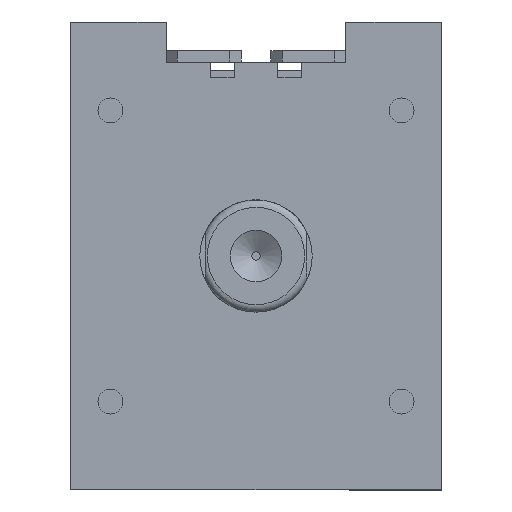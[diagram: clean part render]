
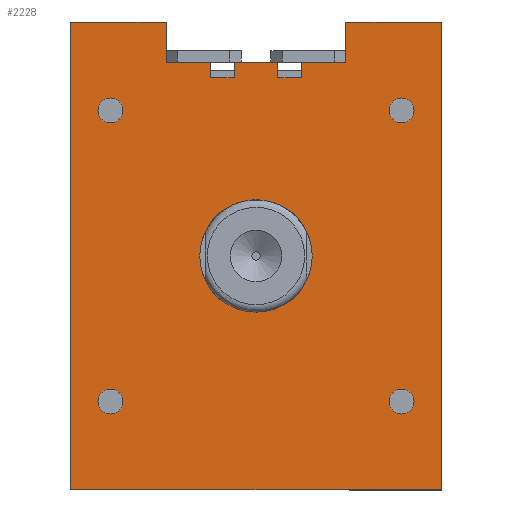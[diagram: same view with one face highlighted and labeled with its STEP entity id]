
A CAD part, front view. The second image highlights one B-rep face of the part: STEP entity #2228.
In plain terms, the highlighted planar face has unit normal (0, -1, 0).
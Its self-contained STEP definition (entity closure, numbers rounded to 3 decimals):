
#2034=CARTESIAN_POINT('',(0.,0.,-15.));
#2035=VERTEX_POINT('',#2034);
#2036=CARTESIAN_POINT('',(0.,0.,0.));
#2037=DIRECTION('',(0.0,1.0,0.0));
#2038=DIRECTION('',(0.0,0.0,-1.0));
#2039=AXIS2_PLACEMENT_3D('',#2036,#2037,#2038);
#2040=CIRCLE('',#2039,15.0);
#2041=EDGE_CURVE('',#2035,#2035,#2040,.T.);
#2046=CARTESIAN_POINT('',(0.,0.,3.066));
#2047=DIRECTION('',(0.0,1.0,0.0));
#2048=DIRECTION('',(-1.0,0.0,0.0));
#2049=AXIS2_PLACEMENT_3D('',#2046,#2047,#2048);
#2050=PLANE('',#2049);
#2051=CARTESIAN_POINT('',(49.5,0.,62.5));
#2052=VERTEX_POINT('',#2051);
#2053=CARTESIAN_POINT('',(49.5,0.,-62.5));
#2054=VERTEX_POINT('',#2053);
#2055=CARTESIAN_POINT('',(49.5,0.,62.5));
#2056=DIRECTION('',(0.0,0.0,-1.0));
#2057=VECTOR('',#2056,125.0);
#2058=LINE('',#2055,#2057);
#2059=EDGE_CURVE('',#2052,#2054,#2058,.T.);
#2060=ORIENTED_EDGE('',*,*,#2059,.F.);
#2061=CARTESIAN_POINT('',(24.,0.,62.5));
#2062=VERTEX_POINT('',#2061);
#2063=CARTESIAN_POINT('',(24.,0.,62.5));
#2064=DIRECTION('',(1.0,0.0,0.0));
#2065=VECTOR('',#2064,25.5);
#2066=LINE('',#2063,#2065);
#2067=EDGE_CURVE('',#2062,#2052,#2066,.T.);
#2068=ORIENTED_EDGE('',*,*,#2067,.F.);
#2069=CARTESIAN_POINT('',(24.,0.,51.8));
#2070=VERTEX_POINT('',#2069);
#2071=CARTESIAN_POINT('',(24.,0.,51.8));
#2072=DIRECTION('',(0.0,0.0,1.0));
#2073=VECTOR('',#2072,10.7);
#2074=LINE('',#2071,#2073);
#2075=EDGE_CURVE('',#2070,#2062,#2074,.T.);
#2076=ORIENTED_EDGE('',*,*,#2075,.F.);
#2077=CARTESIAN_POINT('',(12.2,0.,51.8));
#2078=VERTEX_POINT('',#2077);
#2079=CARTESIAN_POINT('',(12.2,0.,51.8));
#2080=DIRECTION('',(1.0,0.0,0.0));
#2081=VECTOR('',#2080,11.8);
#2082=LINE('',#2079,#2081);
#2083=EDGE_CURVE('',#2078,#2070,#2082,.T.);
#2084=ORIENTED_EDGE('',*,*,#2083,.F.);
#2085=CARTESIAN_POINT('',(12.2,0.,47.6));
#2086=VERTEX_POINT('',#2085);
#2087=CARTESIAN_POINT('',(12.2,0.,47.6));
#2088=DIRECTION('',(0.0,0.0,1.0));
#2089=VECTOR('',#2088,4.2);
#2090=LINE('',#2087,#2089);
#2091=EDGE_CURVE('',#2086,#2078,#2090,.T.);
#2092=ORIENTED_EDGE('',*,*,#2091,.F.);
#2093=CARTESIAN_POINT('',(5.8,0.,47.6));
#2094=VERTEX_POINT('',#2093);
#2095=CARTESIAN_POINT('',(5.8,0.,47.6));
#2096=DIRECTION('',(1.0,0.0,0.0));
#2097=VECTOR('',#2096,6.4);
#2098=LINE('',#2095,#2097);
#2099=EDGE_CURVE('',#2094,#2086,#2098,.T.);
#2100=ORIENTED_EDGE('',*,*,#2099,.F.);
#2101=CARTESIAN_POINT('',(5.8,0.,51.8));
#2102=VERTEX_POINT('',#2101);
#2103=CARTESIAN_POINT('',(5.8,0.,51.8));
#2104=DIRECTION('',(0.0,0.0,-1.0));
#2105=VECTOR('',#2104,4.2);
#2106=LINE('',#2103,#2105);
#2107=EDGE_CURVE('',#2102,#2094,#2106,.T.);
#2108=ORIENTED_EDGE('',*,*,#2107,.F.);
#2109=CARTESIAN_POINT('',(-5.8,0.,51.8));
#2110=VERTEX_POINT('',#2109);
#2111=CARTESIAN_POINT('',(-5.8,0.,51.8));
#2112=DIRECTION('',(1.0,0.0,0.0));
#2113=VECTOR('',#2112,11.6);
#2114=LINE('',#2111,#2113);
#2115=EDGE_CURVE('',#2110,#2102,#2114,.T.);
#2116=ORIENTED_EDGE('',*,*,#2115,.F.);
#2117=CARTESIAN_POINT('',(-5.8,0.,47.6));
#2118=VERTEX_POINT('',#2117);
#2119=CARTESIAN_POINT('',(-5.8,0.,47.6));
#2120=DIRECTION('',(0.0,0.0,1.0));
#2121=VECTOR('',#2120,4.2);
#2122=LINE('',#2119,#2121);
#2123=EDGE_CURVE('',#2118,#2110,#2122,.T.);
#2124=ORIENTED_EDGE('',*,*,#2123,.F.);
#2125=CARTESIAN_POINT('',(-12.2,0.,47.6));
#2126=VERTEX_POINT('',#2125);
#2127=CARTESIAN_POINT('',(-12.2,0.,47.6));
#2128=DIRECTION('',(1.0,0.0,0.0));
#2129=VECTOR('',#2128,6.4);
#2130=LINE('',#2127,#2129);
#2131=EDGE_CURVE('',#2126,#2118,#2130,.T.);
#2132=ORIENTED_EDGE('',*,*,#2131,.F.);
#2133=CARTESIAN_POINT('',(-12.2,0.,51.8));
#2134=VERTEX_POINT('',#2133);
#2135=CARTESIAN_POINT('',(-12.2,0.,51.8));
#2136=DIRECTION('',(0.0,0.0,-1.0));
#2137=VECTOR('',#2136,4.2);
#2138=LINE('',#2135,#2137);
#2139=EDGE_CURVE('',#2134,#2126,#2138,.T.);
#2140=ORIENTED_EDGE('',*,*,#2139,.F.);
#2141=CARTESIAN_POINT('',(-24.,0.,51.8));
#2142=VERTEX_POINT('',#2141);
#2143=CARTESIAN_POINT('',(-24.,0.,51.8));
#2144=DIRECTION('',(1.0,0.0,0.0));
#2145=VECTOR('',#2144,11.8);
#2146=LINE('',#2143,#2145);
#2147=EDGE_CURVE('',#2142,#2134,#2146,.T.);
#2148=ORIENTED_EDGE('',*,*,#2147,.F.);
#2149=CARTESIAN_POINT('',(-24.,0.,62.5));
#2150=VERTEX_POINT('',#2149);
#2151=CARTESIAN_POINT('',(-24.,0.,62.5));
#2152=DIRECTION('',(0.0,0.0,-1.0));
#2153=VECTOR('',#2152,10.7);
#2154=LINE('',#2151,#2153);
#2155=EDGE_CURVE('',#2150,#2142,#2154,.T.);
#2156=ORIENTED_EDGE('',*,*,#2155,.F.);
#2157=CARTESIAN_POINT('',(-49.5,0.,62.5));
#2158=VERTEX_POINT('',#2157);
#2159=CARTESIAN_POINT('',(-49.5,0.,62.5));
#2160=DIRECTION('',(1.0,0.0,0.0));
#2161=VECTOR('',#2160,25.5);
#2162=LINE('',#2159,#2161);
#2163=EDGE_CURVE('',#2158,#2150,#2162,.T.);
#2164=ORIENTED_EDGE('',*,*,#2163,.F.);
#2165=CARTESIAN_POINT('',(-49.5,0.,-62.5));
#2166=VERTEX_POINT('',#2165);
#2167=CARTESIAN_POINT('',(-49.5,0.,-62.5));
#2168=DIRECTION('',(0.0,0.0,1.0));
#2169=VECTOR('',#2168,125.0);
#2170=LINE('',#2167,#2169);
#2171=EDGE_CURVE('',#2166,#2158,#2170,.T.);
#2172=ORIENTED_EDGE('',*,*,#2171,.F.);
#2173=CARTESIAN_POINT('',(49.5,0.,-62.5));
#2174=DIRECTION('',(-1.0,0.0,0.0));
#2175=VECTOR('',#2174,99.0);
#2176=LINE('',#2173,#2175);
#2177=EDGE_CURVE('',#2054,#2166,#2176,.T.);
#2178=ORIENTED_EDGE('',*,*,#2177,.F.);
#2179=EDGE_LOOP('',(#2060,#2068,#2076,#2084,#2092,#2100,#2108,#2116,#2124,#2132,#2140,#2148,#2156,#2164,#2172,#2178));
#2180=FACE_OUTER_BOUND('',#2179,.T.);
#2181=CARTESIAN_POINT('',(-35.567,0.,38.891));
#2182=VERTEX_POINT('',#2181);
#2183=CARTESIAN_POINT('',(-38.891,0.,38.891));
#2184=DIRECTION('',(0.0,1.0,0.0));
#2185=DIRECTION('',(1.0,0.0,0.0));
#2186=AXIS2_PLACEMENT_3D('',#2183,#2184,#2185);
#2187=CIRCLE('',#2186,3.324);
#2188=EDGE_CURVE('',#2182,#2182,#2187,.T.);
#2189=ORIENTED_EDGE('',*,*,#2188,.T.);
#2190=EDGE_LOOP('',(#2189));
#2191=FACE_BOUND('',#2190,.T.);
#2192=CARTESIAN_POINT('',(42.214,0.,38.891));
#2193=VERTEX_POINT('',#2192);
#2194=CARTESIAN_POINT('',(38.891,0.,38.891));
#2195=DIRECTION('',(0.0,1.0,0.0));
#2196=DIRECTION('',(1.0,0.0,0.0));
#2197=AXIS2_PLACEMENT_3D('',#2194,#2195,#2196);
#2198=CIRCLE('',#2197,3.324);
#2199=EDGE_CURVE('',#2193,#2193,#2198,.T.);
#2200=ORIENTED_EDGE('',*,*,#2199,.T.);
#2201=EDGE_LOOP('',(#2200));
#2202=FACE_BOUND('',#2201,.T.);
#2203=CARTESIAN_POINT('',(42.214,0.,-38.891));
#2204=VERTEX_POINT('',#2203);
#2205=CARTESIAN_POINT('',(38.891,0.,-38.891));
#2206=DIRECTION('',(0.0,1.0,0.0));
#2207=DIRECTION('',(1.0,0.0,0.0));
#2208=AXIS2_PLACEMENT_3D('',#2205,#2206,#2207);
#2209=CIRCLE('',#2208,3.324);
#2210=EDGE_CURVE('',#2204,#2204,#2209,.T.);
#2211=ORIENTED_EDGE('',*,*,#2210,.T.);
#2212=EDGE_LOOP('',(#2211));
#2213=FACE_BOUND('',#2212,.T.);
#2214=CARTESIAN_POINT('',(-35.567,0.,-38.891));
#2215=VERTEX_POINT('',#2214);
#2216=CARTESIAN_POINT('',(-38.891,0.,-38.891));
#2217=DIRECTION('',(0.0,1.0,0.0));
#2218=DIRECTION('',(1.0,0.0,0.0));
#2219=AXIS2_PLACEMENT_3D('',#2216,#2217,#2218);
#2220=CIRCLE('',#2219,3.324);
#2221=EDGE_CURVE('',#2215,#2215,#2220,.T.);
#2222=ORIENTED_EDGE('',*,*,#2221,.T.);
#2223=EDGE_LOOP('',(#2222));
#2224=FACE_BOUND('',#2223,.T.);
#2225=ORIENTED_EDGE('',*,*,#2041,.T.);
#2226=EDGE_LOOP('',(#2225));
#2227=FACE_BOUND('',#2226,.T.);
#2228=ADVANCED_FACE('',(#2180,#2191,#2202,#2213,#2224,#2227),#2050,.F.);
